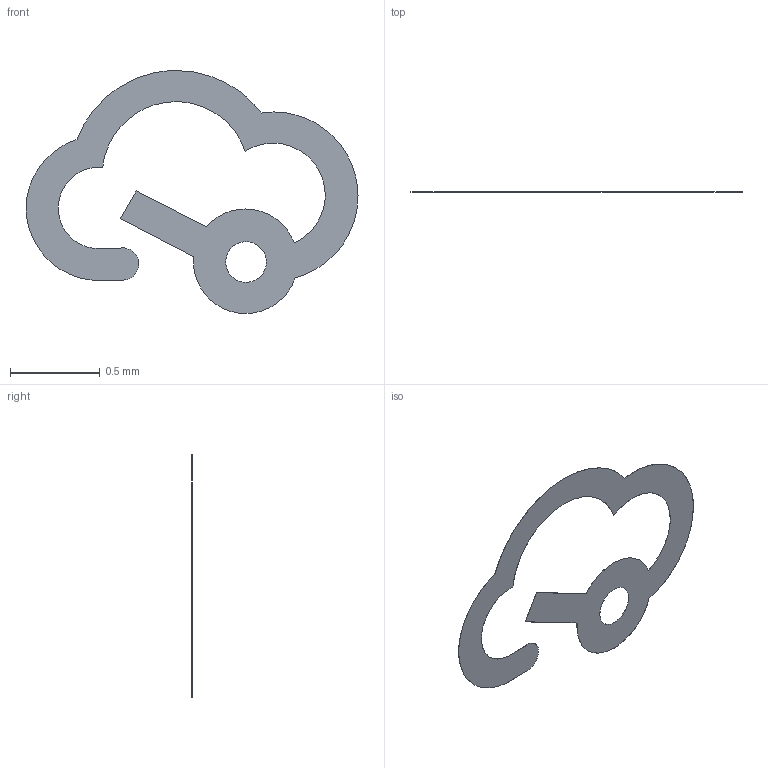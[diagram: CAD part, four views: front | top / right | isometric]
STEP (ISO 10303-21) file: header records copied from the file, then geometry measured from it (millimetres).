
FILE_DESCRIPTION(/* description */ ('STEP AP242 Edition 2','CAx-IF Rec.Pracs.---Representation and Presentation of Product Manufacturing Information (PMI)---4.0---2014-10-13','CAx-IF Rec.Pracs.---3D Tessellated Geometry---0.4---2014-09-14','2;1','CAx-IF Rec.Pracs.---User Defined Attributes---1.5---2016-08-15'),/* implementation_level */ '2;1');
FILE_NAME(/* name */ 'Assembly 1 - SW-TH_EC11E18244A5~SW-TH_EC11E18244A5-L11.7-W12.0-H24.5-P2.5-LS14.5~nxQB (13)',/* time_stamp */ '2026-04-02T09:55:29Z',/* author */ (''),/* organization */ (''),/* preprocessor_version */ 'ST-DEVELOPER v20',/* originating_system */ 'ONSHAPE BY PTC INC, 1.212',/* authorisation */ ' ');
FILE_SCHEMA (('AP242_MANAGED_MODEL_BASED_3D_ENGINEERING_MIM_LF { 1 0 10303 442 3 1 4 }'));
Length unit declared in the file: metre
Products named in the file (1): SW-TH_EC11E18244A5~SW-TH_EC11E18244A5-L11.7-W12.0-H24.5-P2.5-LS14.5~n
xQB
Bounding box: 1.84 x 0 x 1.35 mm (x, y, z)
Volume: 0 mm3; surface area: 1.9 mm2
Topology: 1 solids, 1 shells, 37 faces, 105 edges, 70 vertices
Faces by surface type: bspline 28, plane 9
Entity records: 1653 total; most frequent: CARTESIAN_POINT 597, ORIENTED_EDGE 210, EDGE_CURVE 105, VERTEX_POINT 70, DIRECTION 69, B_SPLINE_CURVE_WITH_KNOTS 56, LINE 49, VECTOR 49
